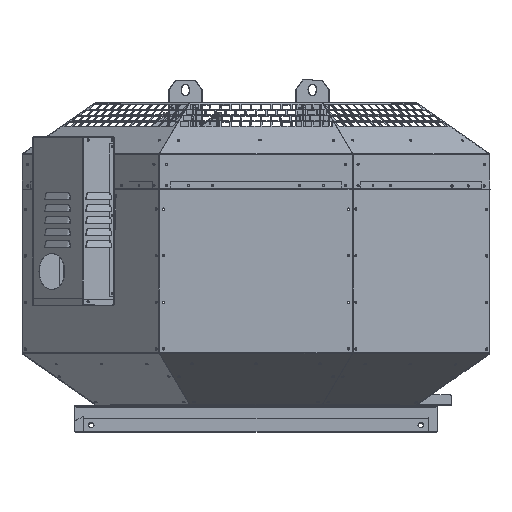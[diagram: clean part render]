
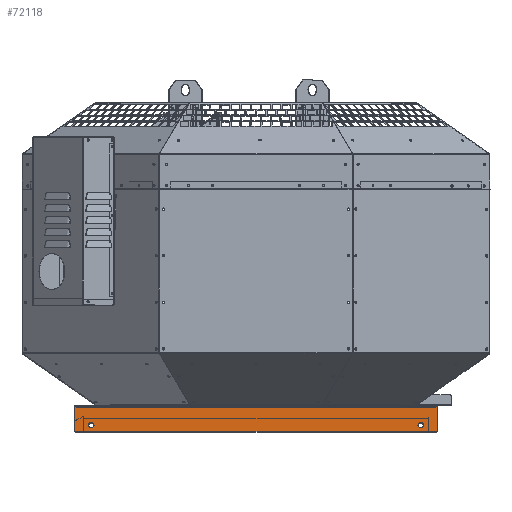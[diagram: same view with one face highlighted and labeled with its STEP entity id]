
A CAD part, top view. The second image highlights one B-rep face of the part: STEP entity #72118.
In plain terms, the highlighted planar face has unit normal (0, 0, 1).
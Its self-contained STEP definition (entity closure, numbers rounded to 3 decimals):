
#957 = CIRCLE ( 'NONE', #112276, 3. ) ;
#1204 = CARTESIAN_POINT ( 'NONE',  ( -283., -17.7, 301.1 ) ) ;
#1842 = EDGE_CURVE ( 'NONE', #113498, #11655, #124470, .T. ) ;
#2152 = CARTESIAN_POINT ( 'NONE',  ( -312.45, -21., 301.1 ) ) ;
#4746 = EDGE_CURVE ( 'NONE', #109980, #108845, #42991, .T. ) ;
#5974 = EDGE_CURVE ( 'NONE', #58767, #115293, #138059, .T. ) ;
#7551 = DIRECTION ( 'NONE',  ( 0., -1., 0. ) ) ;
#10685 = DIRECTION ( 'NONE',  ( 0., 0., 1. ) ) ;
#11655 = VERTEX_POINT ( 'NONE', #148172 ) ;
#14037 = LINE ( 'NONE', #74240, #132949 ) ;
#14654 = CARTESIAN_POINT ( 'NONE',  ( 309.45, -21., 301.1 ) ) ;
#16231 = CARTESIAN_POINT ( 'NONE',  ( 283., -8.7, 301.1 ) ) ;
#18077 = CARTESIAN_POINT ( 'NONE',  ( -283., -8.7, 301.1 ) ) ;
#21459 = CARTESIAN_POINT ( 'NONE',  ( 312.45, 17.6, 301.1 ) ) ;
#23119 = EDGE_CURVE ( 'NONE', #115293, #11655, #25445, .T. ) ;
#25445 = CIRCLE ( 'NONE', #43056, 3. ) ;
#26224 = DIRECTION ( 'NONE',  ( 0., -1., 0. ) ) ;
#26496 = VERTEX_POINT ( 'NONE', #133597 ) ;
#26641 = DIRECTION ( 'NONE',  ( 0., -1., 0. ) ) ;
#31443 = DIRECTION ( 'NONE',  ( 0., 0., 1. ) ) ;
#38465 = CARTESIAN_POINT ( 'NONE',  ( 309.45, -24., 301.1 ) ) ;
#39391 = VECTOR ( 'NONE', #106578, 1000. ) ;
#40689 = VERTEX_POINT ( 'NONE', #106663 ) ;
#42991 = LINE ( 'NONE', #54801, #39391 ) ;
#43056 = AXIS2_PLACEMENT_3D ( 'NONE', #145605, #76490, #7551 ) ;
#45442 = ORIENTED_EDGE ( 'NONE', *, *, #134933, .F. ) ;
#45468 = CARTESIAN_POINT ( 'NONE',  ( 283., -13.2, 301.1 ) ) ;
#46064 = CIRCLE ( 'NONE', #50464, 4.5 ) ;
#49073 = CARTESIAN_POINT ( 'NONE',  ( -312.45, 17.6, 301.1 ) ) ;
#49244 = DIRECTION ( 'NONE',  ( -1., 0., 0. ) ) ;
#50464 = AXIS2_PLACEMENT_3D ( 'NONE', #126478, #57487, #138095 ) ;
#54149 = CARTESIAN_POINT ( 'NONE',  ( 309.05, 17.6, 301.1 ) ) ;
#54801 = CARTESIAN_POINT ( 'NONE',  ( 312.45, 17.6, 301.1 ) ) ;
#55089 = CIRCLE ( 'NONE', #91264, 4.5 ) ;
#57015 = DIRECTION ( 'NONE',  ( 0., -1., 0. ) ) ;
#57487 = DIRECTION ( 'NONE',  ( 0., 0., 1. ) ) ;
#57622 = FACE_BOUND ( 'NONE', #73509, .T. ) ;
#58767 = VERTEX_POINT ( 'NONE', #79247 ) ;
#60877 = PLANE ( 'NONE',  #64539 ) ;
#61231 = FACE_BOUND ( 'NONE', #113214, .T. ) ;
#61834 = ORIENTED_EDGE ( 'NONE', *, *, #103955, .F. ) ;
#62547 = CIRCLE ( 'NONE', #102255, 4.5 ) ;
#63633 = ORIENTED_EDGE ( 'NONE', *, *, #141304, .F. ) ;
#64451 = AXIS2_PLACEMENT_3D ( 'NONE', #100358, #31443, #111993 ) ;
#64539 = AXIS2_PLACEMENT_3D ( 'NONE', #84019, #95547, #26641 ) ;
#65986 = VERTEX_POINT ( 'NONE', #16231 ) ;
#71965 = CARTESIAN_POINT ( 'NONE',  ( 294.55, 17.6, 301.1 ) ) ;
#72118 = ADVANCED_FACE ( 'NONE', ( #61231, #57622, #84630 ), #60877, .T. ) ;
#72305 = VECTOR ( 'NONE', #101209, 1000. ) ;
#73509 = EDGE_LOOP ( 'NONE', ( #115974, #45442 ) ) ;
#73607 = EDGE_CURVE ( 'NONE', #81490, #92779, #62547, .T. ) ;
#74240 = CARTESIAN_POINT ( 'NONE',  ( -294.55, 17.6, 301.1 ) ) ;
#75935 = LINE ( 'NONE', #147704, #72305 ) ;
#76490 = DIRECTION ( 'NONE',  ( 0., 0., 1. ) ) ;
#76762 = VECTOR ( 'NONE', #106487, 1000. ) ;
#79247 = CARTESIAN_POINT ( 'NONE',  ( -312.45, 17.6, 301.1 ) ) ;
#79597 = CARTESIAN_POINT ( 'NONE',  ( -283., -13.2, 301.1 ) ) ;
#81490 = VERTEX_POINT ( 'NONE', #1204 ) ;
#83034 = DIRECTION ( 'NONE',  ( 1., 0., 0. ) ) ;
#84019 = CARTESIAN_POINT ( 'NONE',  ( -294.55, 19.5, 301.1 ) ) ;
#84406 = ORIENTED_EDGE ( 'NONE', *, *, #143587, .T. ) ;
#84630 = FACE_OUTER_BOUND ( 'NONE', #114164, .T. ) ;
#91147 = DIRECTION ( 'NONE',  ( 0., -1., 0. ) ) ;
#91264 = AXIS2_PLACEMENT_3D ( 'NONE', #45468, #126028, #57015 ) ;
#91867 = LINE ( 'NONE', #71965, #115368 ) ;
#92779 = VERTEX_POINT ( 'NONE', #18077 ) ;
#93780 = VECTOR ( 'NONE', #49244, 1000. ) ;
#95158 = DIRECTION ( 'NONE',  ( 0., 0., 1. ) ) ;
#95547 = DIRECTION ( 'NONE',  ( 0., 0., 1. ) ) ;
#99334 = EDGE_CURVE ( 'NONE', #40689, #58767, #14037, .T. ) ;
#100358 = CARTESIAN_POINT ( 'NONE',  ( -283., -13.2, 301.1 ) ) ;
#101209 = DIRECTION ( 'NONE',  ( -1., 0., 0. ) ) ;
#101371 = CIRCLE ( 'NONE', #64451, 4.5 ) ;
#102255 = AXIS2_PLACEMENT_3D ( 'NONE', #79597, #10685, #91147 ) ;
#103955 = EDGE_CURVE ( 'NONE', #139939, #109980, #91867, .T. ) ;
#106487 = DIRECTION ( 'NONE',  ( 0., -1., 0. ) ) ;
#106578 = DIRECTION ( 'NONE',  ( 0., -1., 0. ) ) ;
#106663 = CARTESIAN_POINT ( 'NONE',  ( -309.05, 17.6, 301.1 ) ) ;
#108845 = VERTEX_POINT ( 'NONE', #112590 ) ;
#109048 = DIRECTION ( 'NONE',  ( -1., 0., 0. ) ) ;
#109980 = VERTEX_POINT ( 'NONE', #21459 ) ;
#111993 = DIRECTION ( 'NONE',  ( 0., -1., 0. ) ) ;
#112276 = AXIS2_PLACEMENT_3D ( 'NONE', #14654, #95158, #26224 ) ;
#112590 = CARTESIAN_POINT ( 'NONE',  ( 312.45, -21., 301.1 ) ) ;
#113214 = EDGE_LOOP ( 'NONE', ( #129517, #63633 ) ) ;
#113498 = VERTEX_POINT ( 'NONE', #38465 ) ;
#114164 = EDGE_LOOP ( 'NONE', ( #123879, #136540, #123896, #116653, #131415, #61834, #84406, #116021 ) ) ;
#115293 = VERTEX_POINT ( 'NONE', #2152 ) ;
#115368 = VECTOR ( 'NONE', #83034, 1000. ) ;
#115974 = ORIENTED_EDGE ( 'NONE', *, *, #73607, .F. ) ;
#116021 = ORIENTED_EDGE ( 'NONE', *, *, #99334, .T. ) ;
#116653 = ORIENTED_EDGE ( 'NONE', *, *, #141465, .T. ) ;
#118296 = CARTESIAN_POINT ( 'NONE',  ( -294.55, -24., 301.1 ) ) ;
#123879 = ORIENTED_EDGE ( 'NONE', *, *, #5974, .T. ) ;
#123896 = ORIENTED_EDGE ( 'NONE', *, *, #1842, .F. ) ;
#124470 = LINE ( 'NONE', #118296, #93780 ) ;
#126028 = DIRECTION ( 'NONE',  ( 0., 0., 1. ) ) ;
#126478 = CARTESIAN_POINT ( 'NONE',  ( 283., -13.2, 301.1 ) ) ;
#129517 = ORIENTED_EDGE ( 'NONE', *, *, #145893, .F. ) ;
#131415 = ORIENTED_EDGE ( 'NONE', *, *, #4746, .F. ) ;
#132949 = VECTOR ( 'NONE', #109048, 1000. ) ;
#133597 = CARTESIAN_POINT ( 'NONE',  ( 283., -17.7, 301.1 ) ) ;
#134933 = EDGE_CURVE ( 'NONE', #92779, #81490, #101371, .T. ) ;
#136540 = ORIENTED_EDGE ( 'NONE', *, *, #23119, .T. ) ;
#138059 = LINE ( 'NONE', #49073, #76762 ) ;
#138095 = DIRECTION ( 'NONE',  ( 0., -1., 0. ) ) ;
#139939 = VERTEX_POINT ( 'NONE', #54149 ) ;
#141304 = EDGE_CURVE ( 'NONE', #65986, #26496, #46064, .T. ) ;
#141465 = EDGE_CURVE ( 'NONE', #113498, #108845, #957, .T. ) ;
#143587 = EDGE_CURVE ( 'NONE', #139939, #40689, #75935, .T. ) ;
#145605 = CARTESIAN_POINT ( 'NONE',  ( -309.45, -21., 301.1 ) ) ;
#145893 = EDGE_CURVE ( 'NONE', #26496, #65986, #55089, .T. ) ;
#147704 = CARTESIAN_POINT ( 'NONE',  ( -294.55, 17.6, 301.1 ) ) ;
#148172 = CARTESIAN_POINT ( 'NONE',  ( -309.45, -24., 301.1 ) ) ;
